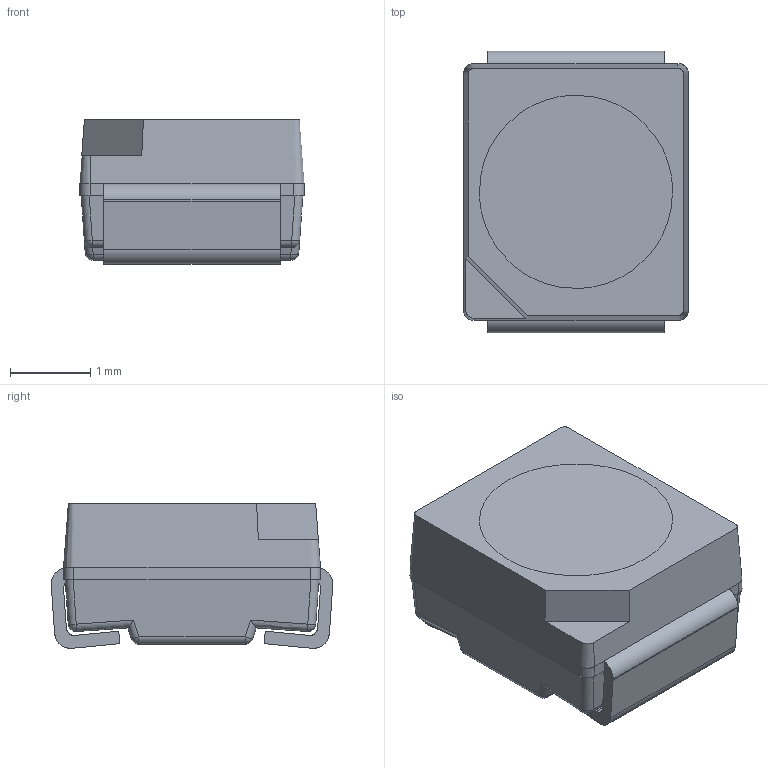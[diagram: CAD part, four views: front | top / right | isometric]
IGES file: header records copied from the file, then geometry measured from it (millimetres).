
Start section: SolidWorks IGES file using analytic representation for surfaces
Global section: file name: C:\Users\user\Desktop\SW22\ヶ蚾陬腑3D恅璃\LRA.IGS; native system: SolidWorks 2022; preprocessor: SolidWorks 2022; author: user; date: 240130.050927; units: millimetre
Bounding box: 2.8 x 3.51 x 1.8 mm (x, y, z)
Surface area: 50.9 mm2 (no closed solid volume)
Topology: 0 solids, 0 shells, 94 faces, 716 edges, 708 vertices
Faces by surface type: revolution 48, bspline 46
